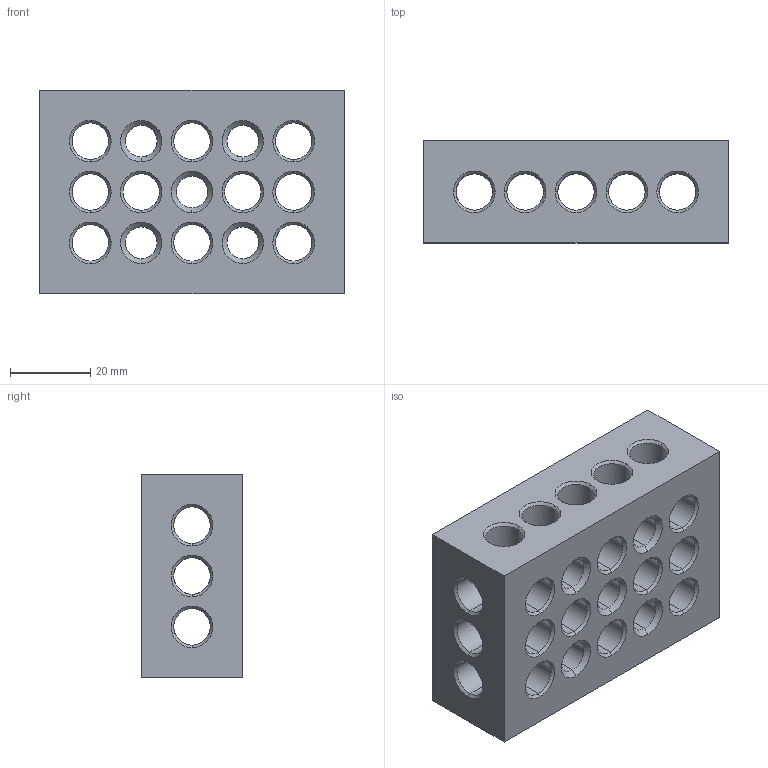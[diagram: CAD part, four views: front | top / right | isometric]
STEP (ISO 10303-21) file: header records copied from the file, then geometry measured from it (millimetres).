
FILE_DESCRIPTION (( 'STEP AP214' ), '1' );
FILE_NAME ('31950_1-2-3_BLOCK.STEP', '2015-01-06T20:52:26', ( '' ), ( '' ), 'SwSTEP 2.0', 'SolidWorks 2012', '' );
FILE_SCHEMA (( 'AUTOMOTIVE_DESIGN' ));
Length unit declared in the file: inch
Products named in the file (1): 31950_1-2-3_BLOCK
Bounding box: 76.2 x 25.4 x 50.8 mm (x, y, z)
Volume: 58890.9 mm3; surface area: 24807.4 mm2
Topology: 1 solids, 1 shells, 234 faces, 724 edges, 432 vertices
Faces by surface type: cylinder 136, cone 92, plane 6
Entity records: 11850 total; most frequent: CARTESIAN_POINT 2911, ORIENTED_EDGE 1448, DIRECTION 1078, EDGE_CURVE 724, VERTEX_POINT 432, AXIS2_PLACEMENT_3D 419, EDGE_LOOP 280, VECTOR 240
